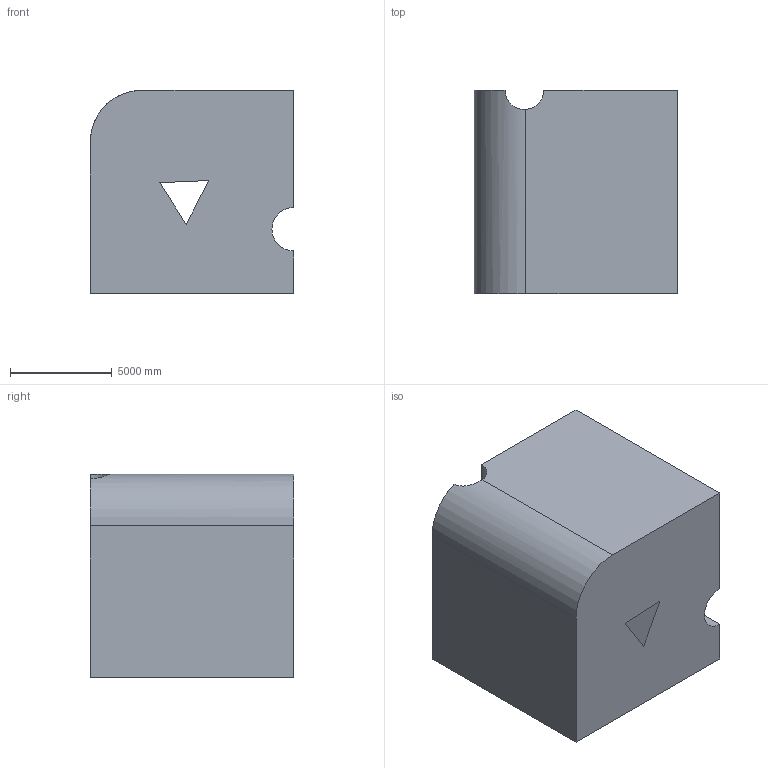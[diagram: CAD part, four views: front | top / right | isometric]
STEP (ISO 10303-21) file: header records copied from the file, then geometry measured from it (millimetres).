
FILE_DESCRIPTION (( 'STEP AP203' ), '1' );
FILE_NAME ('557.STEP', '2022-07-29T11:48:36', ( 'user' ), ( '' ), 'SwSTEP 2.0', 'SolidWorks 2021', '' );
FILE_SCHEMA (( 'CONFIG_CONTROL_DESIGN' ));
Length unit declared in the file: centimetre
Products named in the file (1): 557
Bounding box: 10000 x 10000 x 10000 mm (x, y, z)
Volume: 881663769073.3 mm3; surface area: 779558642 mm2
Topology: 1 solids, 1 shells, 26 faces, 61 edges, 40 vertices
Faces by surface type: plane 15, cylinder 11
Entity records: 887 total; most frequent: CARTESIAN_POINT 185, DIRECTION 136, ORIENTED_EDGE 122, EDGE_CURVE 61, AXIS2_PLACEMENT_3D 49, VERTEX_POINT 40, LINE 38, VECTOR 38
